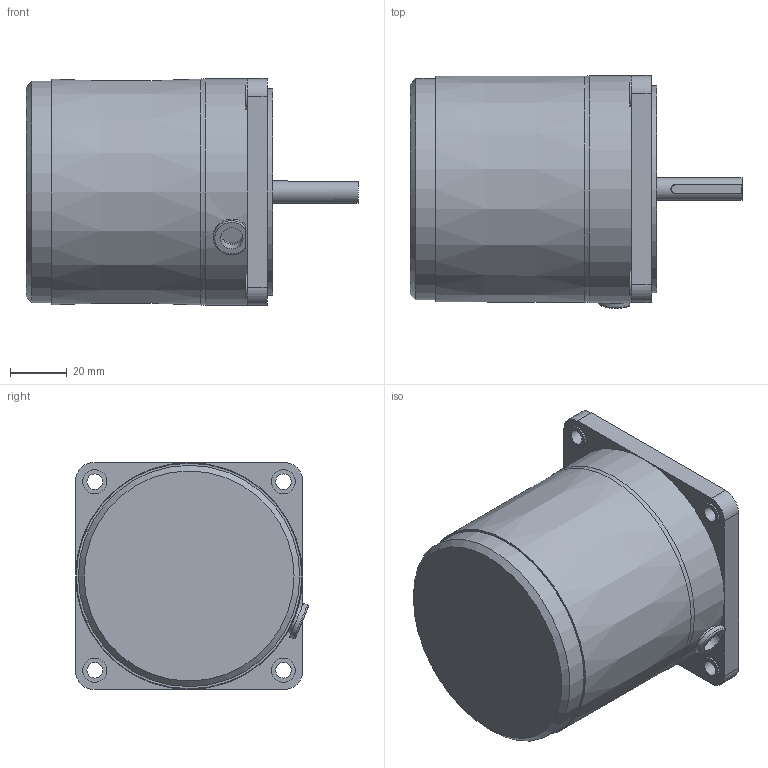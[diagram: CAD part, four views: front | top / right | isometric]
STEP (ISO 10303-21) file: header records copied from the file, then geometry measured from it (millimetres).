
FILE_DESCRIPTION((''),'2;1');
FILE_NAME('D:\STP파일\25W MOTOR\S8I15K.stp','2013-05-20T16:35:34',('leebh'),(''),'Autodesk Inventor 2011','Autodesk Inventor 2011','');
FILE_SCHEMA(('AUTOMOTIVE_DESIGN { 1 0 10303 214 1 1 1 1 }'));
Length unit declared in the file: millimetre
Products named in the file (1): 부품3
Bounding box: 117 x 82.06 x 80 mm (x, y, z)
Volume: 427998.9 mm3; surface area: 37590.1 mm2
Topology: 1 solids, 2 shells, 91 faces, 209 edges, 135 vertices
Faces by surface type: plane 52, cylinder 32, bspline 3, torus 2, cone 2
Full cylindrical faces by diameter (mm): 5.5 x4, 8 x2, 8.5 x4, 34 x1, 73 x1, 78 x1, 80 x1
Entity records: 2852 total; most frequent: CARTESIAN_POINT 789, DIRECTION 428, ORIENTED_EDGE 382, EDGE_CURVE 191, AXIS2_PLACEMENT_3D 163, VERTEX_POINT 134, EDGE_LOOP 129, VECTOR 102
